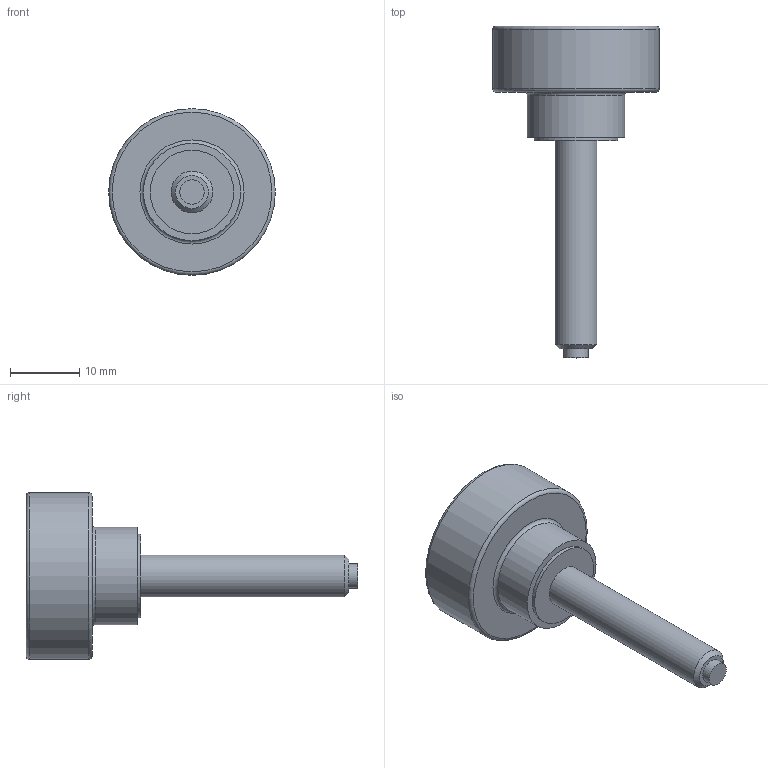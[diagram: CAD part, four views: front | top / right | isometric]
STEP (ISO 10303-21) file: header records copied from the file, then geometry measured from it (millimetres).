
FILE_DESCRIPTION( ( 'STEP AP203' ), '1' );
FILE_NAME( 'C:/Temp/Ganter_Step_05_03_2020/data/2_2/gn_421_10/Hollow knurled knob, with tip GN 421.10-M6-30-KU.stp', '2020-03-05T12:25:34', ( 'License CC BY-ND 4.0' ), ( 'CADENAS' ), ' ', 'PARTsolutions', ' ' );
FILE_SCHEMA( ( 'CONFIG_CONTROL_DESIGN' ) );
Length unit declared in the file: millimetre
Products named in the file (1): _Hollow knurled knob, with tip GN 421.10-M6-30-KU
Bounding box: 24 x 47.8 x 24 mm (x, y, z)
Volume: 4341.4 mm3; surface area: 2904 mm2
Topology: 1 solids, 1 shells, 19 faces, 30 edges, 19 vertices
Faces by surface type: plane 8, cylinder 7, torus 3, cone 1
Full cylindrical faces by diameter (mm): 3.5 x1, 6 x1, 10 x1, 12 x1, 14 x1, 20 x1, 24 x1
Entity records: 418 total; most frequent: DIRECTION 76, CARTESIAN_POINT 56, AXIS2_PLACEMENT_3D 38, EDGE_LOOP 36, ORIENTED_EDGE 36, FACE_OUTER_BOUND 29, ADVANCED_FACE 19, EDGE_CURVE 18
